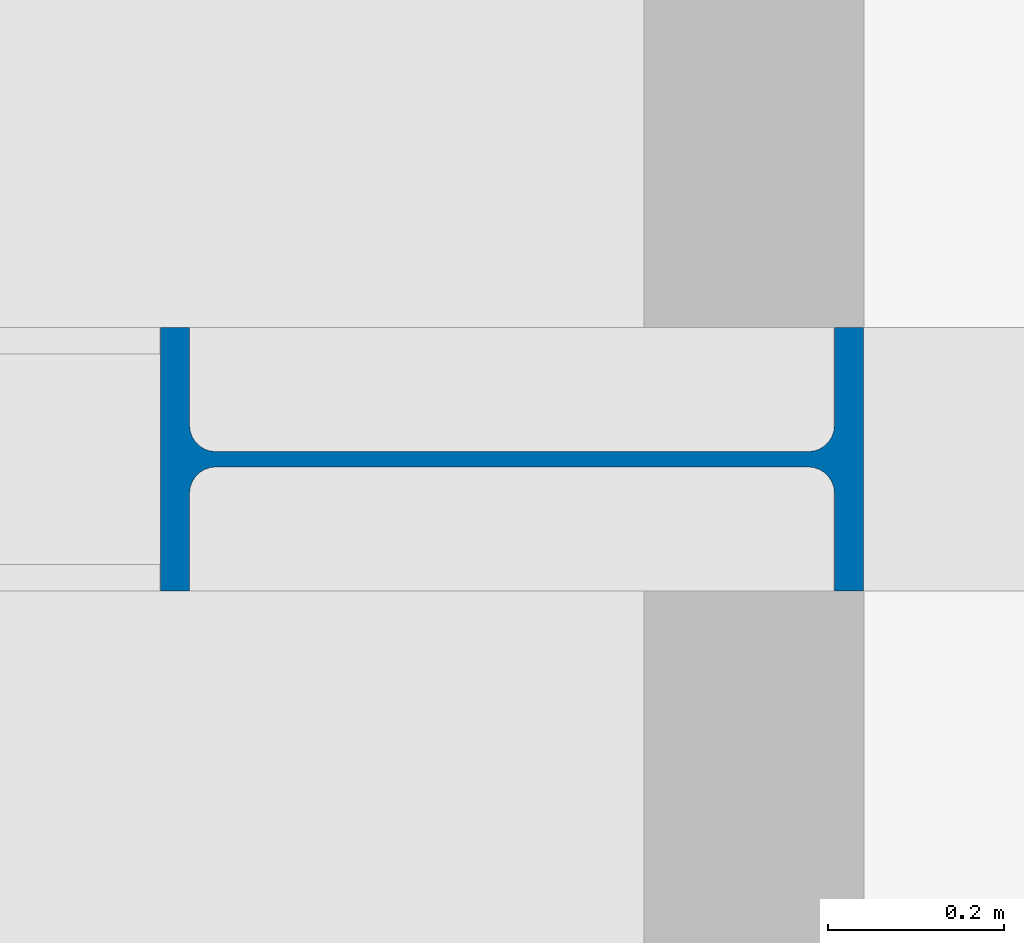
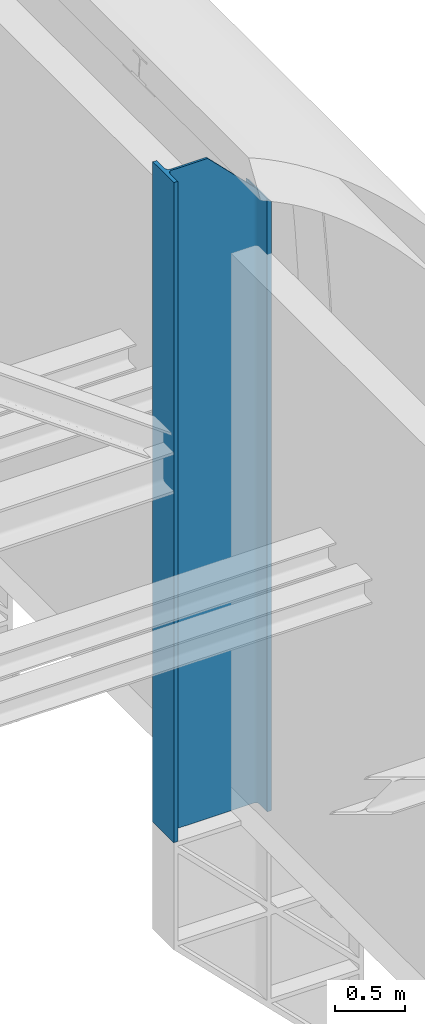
# One storey, part 3 of 29: 1 column.
"""IFC2X3 building model written with IfcOpenShell, lengths in millimetres."""

from ifc_helpers import new_model, entity, si_unit, converted_unit, derived_unit, direction, frame, frame_2d, origin, place, context, subcontext, project, spatial, i_section, extrude, clip, halfspace, source, transform, mapped, material, type_object, type_shapes, element, save


model = new_model("IFC2X3")

# Units and contexts
model_context = context("Model", 3, precision=0.01, world=origin(), true_north=direction((6.12303176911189e-17, 1.0)))
body_context = subcontext(model_context, "Body", "Model", "MODEL_VIEW")
ifc_project = project(units=[si_unit("LENGTHUNIT", "METRE", prefix="MILLI"), si_unit("AREAUNIT", "SQUARE_METRE", prefix="MILLI"), si_unit("VOLUMEUNIT", "CUBIC_METRE"), converted_unit("PLANEANGLEUNIT", "DEGREE", entity("IfcRatioMeasure", 0.0174532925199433), si_unit("PLANEANGLEUNIT", "RADIAN"), dimensions=[0, 0, 0, 0, 0, 0, 0]), si_unit("MASSUNIT", "GRAM", prefix="KILO"), derived_unit("MASSDENSITYUNIT", [(si_unit("MASSUNIT", "GRAM", prefix="KILO"), 1), (si_unit("LENGTHUNIT", "METRE"), -3)]), derived_unit("MOMENTOFINERTIAUNIT", [(si_unit("LENGTHUNIT", "METRE"), 4)]), si_unit("TIMEUNIT", "SECOND"), si_unit("FREQUENCYUNIT", "HERTZ"), si_unit("THERMODYNAMICTEMPERATUREUNIT", "DEGREE_CELSIUS"), derived_unit("THERMALTRANSMITTANCEUNIT", [(si_unit("MASSUNIT", "GRAM", prefix="KILO"), 1), (si_unit("THERMODYNAMICTEMPERATUREUNIT", "KELVIN"), -1), (si_unit("TIMEUNIT", "SECOND"), -3)]), derived_unit("VOLUMETRICFLOWRATEUNIT", [(si_unit("LENGTHUNIT", "METRE"), 3), (si_unit("TIMEUNIT", "SECOND"), -1)]), si_unit("ELECTRICCURRENTUNIT", "AMPERE"), si_unit("ELECTRICVOLTAGEUNIT", "VOLT"), si_unit("POWERUNIT", "WATT"), si_unit("FORCEUNIT", "NEWTON", prefix="KILO"), si_unit("ILLUMINANCEUNIT", "LUX"), si_unit("LUMINOUSFLUXUNIT", "LUMEN"), si_unit("LUMINOUSINTENSITYUNIT", "CANDELA"), derived_unit("USERDEFINED", [(si_unit("MASSUNIT", "GRAM", prefix="KILO"), -1), (si_unit("LENGTHUNIT", "METRE"), -2), (si_unit("TIMEUNIT", "SECOND"), 3), (si_unit("LUMINOUSFLUXUNIT", "LUMEN"), 1)]), derived_unit("LINEARVELOCITYUNIT", [(si_unit("LENGTHUNIT", "METRE"), 1), (si_unit("TIMEUNIT", "SECOND"), -1)]), si_unit("PRESSUREUNIT", "PASCAL"), derived_unit("USERDEFINED", [(si_unit("LENGTHUNIT", "METRE"), -2), (si_unit("MASSUNIT", "GRAM", prefix="KILO"), 1), (si_unit("TIMEUNIT", "SECOND"), -2)]), derived_unit("LINEARFORCEUNIT", [(si_unit("MASSUNIT", "GRAM", prefix="KILO"), 1), (si_unit("LENGTHUNIT", "METRE"), 1), (si_unit("TIMEUNIT", "SECOND"), -2), (si_unit("LENGTHUNIT", "METRE"), -1)]), derived_unit("PLANARFORCEUNIT", [(si_unit("MASSUNIT", "GRAM", prefix="KILO"), 1), (si_unit("LENGTHUNIT", "METRE"), 1), (si_unit("TIMEUNIT", "SECOND"), -2), (si_unit("LENGTHUNIT", "METRE"), -2)])], contexts=[model_context])

# Site, building, storey
site_placement = place(None, origin())
site = spatial("IfcSite", under=ifc_project, at=site_placement, Name="Theater aan de Parade", CompositionType="ELEMENT")
building_placement = place(site_placement, origin())
building = spatial("IfcBuilding", under=site, at=building_placement, Name="Theater aan de Parade", CompositionType="ELEMENT")
storey_placement = place(building_placement, frame((0.0, 0.0, 20300.0)))
storey = spatial("IfcBuildingStorey", under=building, at=storey_placement, Name="05 vijfde verdieping", CompositionType="ELEMENT", Elevation=20300.0)

# Column
ifc_material = material(Name="00_PBT_MAT_staal_S355")
column_type = type_object("IfcColumnType", Name="28_PBT_SC_staal_H-profiel:S355_HE800B", PredefinedType="COLUMN", material=ifc_material)
shared_shape = source(origin(), body_context, "Body", "Clipping", [
    clip(extrude(i_section(OverallWidth=300.000000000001, OverallDepth=799.999999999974, WebThickness=17.5000000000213, FlangeThickness=32.9999999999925, FilletRadius=29.9999999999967, at=frame_2d((4.32009983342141e-12, -1.73372427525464e-11), x_axis=(1.0, 0.0))), frame((85904.5647725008, 29910.0, 19520.0), z_axis=(0.0, 0.0, 1.0), x_axis=(0.0, -1.0, 0.0)), (0.0, 0.0, 1.0), 5730.0), halfspace(frame((85554.5647724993, 35868.1089971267, 25558.9492687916), z_axis=(0.707106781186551, 0.0, 0.707106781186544), x_axis=(-0.707106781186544, 0.0, 0.707106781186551)), False)),
])
type_shapes(column_type, [shared_shape])
column_placement = place(storey_placement, frame((0.0, 0.0, -20300.0)))
element("IfcColumn", 1, at=column_placement, inside=storey, type_object=column_type, material=ifc_material, Name="28_PBT_SC_staal_H-profiel:S355_HE800B", ObjectType="28_PBT_SC_staal_H-profiel:S355_HE800B", context=body_context, shape_type="MappedRepresentation", body=[
    mapped(shared_shape, transform((0.0, 0.0, 0.0), scale=1.0)),
])

save(model, "model.ifc")
